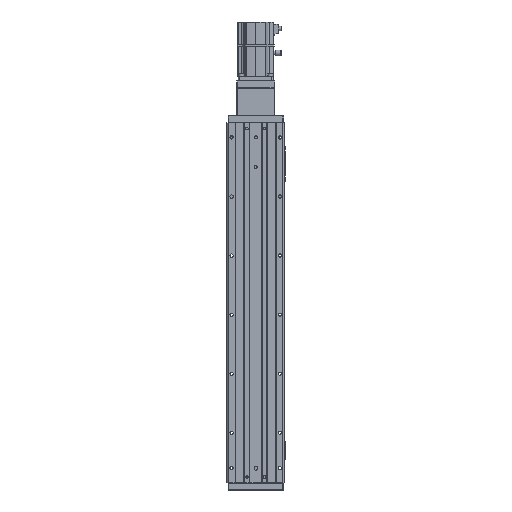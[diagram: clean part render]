
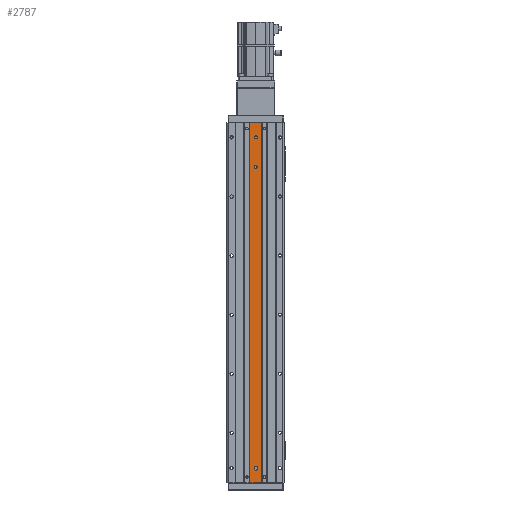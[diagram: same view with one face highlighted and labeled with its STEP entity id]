
A CAD part, front view. The second image highlights one B-rep face of the part: STEP entity #2787.
In plain terms, the highlighted planar face has unit normal (0, -1, 0).
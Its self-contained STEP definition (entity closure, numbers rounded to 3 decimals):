
#437 = EDGE_LOOP ( 'NONE', ( #15315, #3953 ) ) ;
#730 = VERTEX_POINT ( 'NONE', #16511 ) ;
#1087 = CARTESIAN_POINT ( 'NONE',  ( 0., 1., 230. ) ) ;
#1368 = ORIENTED_EDGE ( 'NONE', *, *, #32344, .F. ) ;
#1759 = DIRECTION ( 'NONE',  ( 0., -1., 0. ) ) ;
#2290 = CARTESIAN_POINT ( 'NONE',  ( -10., 1., -305. ) ) ;
#2787 = ADVANCED_FACE ( 'NONE', ( #16586, #30562, #44522, #13165 ), #27108, .F. ) ;
#2794 = ORIENTED_EDGE ( 'NONE', *, *, #29204, .T. ) ;
#3953 = ORIENTED_EDGE ( 'NONE', *, *, #41614, .F. ) ;
#4356 = CARTESIAN_POINT ( 'NONE',  ( 2.5, 1., -279. ) ) ;
#4771 = EDGE_CURVE ( 'NONE', #32066, #15392, #17337, .T. ) ;
#5133 = CARTESIAN_POINT ( 'NONE',  ( 10., 1., -305. ) ) ;
#5310 = CARTESIAN_POINT ( 'NONE',  ( 0., 1., 230. ) ) ;
#5402 = LINE ( 'NONE', #19347, #34308 ) ;
#5474 = DIRECTION ( 'NONE',  ( 1., 0., 0. ) ) ;
#5564 = VERTEX_POINT ( 'NONE', #4356 ) ;
#6497 = VERTEX_POINT ( 'NONE', #11549 ) ;
#9229 = VERTEX_POINT ( 'NONE', #24008 ) ;
#9714 = DIRECTION ( 'NONE',  ( 0., 1., 0. ) ) ;
#9832 = CIRCLE ( 'NONE', #35414, 2.5 ) ;
#10680 = CARTESIAN_POINT ( 'NONE',  ( -10., 1., 305. ) ) ;
#11547 = VERTEX_POINT ( 'NONE', #14691 ) ;
#11549 = CARTESIAN_POINT ( 'NONE',  ( 10., 1., 305. ) ) ;
#11829 = VECTOR ( 'NONE', #13128, 1000. ) ;
#12303 = DIRECTION ( 'NONE',  ( 0., 0., -1. ) ) ;
#12391 = CARTESIAN_POINT ( 'NONE',  ( 0., 1., 280. ) ) ;
#12573 = VERTEX_POINT ( 'NONE', #23191 ) ;
#13128 = DIRECTION ( 'NONE',  ( -1., 0., 0. ) ) ;
#13165 = FACE_OUTER_BOUND ( 'NONE', #34964, .T. ) ;
#14123 = CARTESIAN_POINT ( 'NONE',  ( -2.5, 1., 230. ) ) ;
#14691 = CARTESIAN_POINT ( 'NONE',  ( -2.5, 1., 280. ) ) ;
#14819 = EDGE_CURVE ( 'NONE', #26402, #28461, #16018, .T. ) ;
#14970 = CARTESIAN_POINT ( 'NONE',  ( 2.5, 1., 280. ) ) ;
#15015 = DIRECTION ( 'NONE',  ( 0., -1., 0. ) ) ;
#15190 = AXIS2_PLACEMENT_3D ( 'NONE', #16805, #30764, #44715 ) ;
#15315 = ORIENTED_EDGE ( 'NONE', *, *, #4771, .F. ) ;
#15392 = VERTEX_POINT ( 'NONE', #14123 ) ;
#15686 = DIRECTION ( 'NONE',  ( 1., 0., 0. ) ) ;
#15829 = ORIENTED_EDGE ( 'NONE', *, *, #30804, .F. ) ;
#16018 = LINE ( 'NONE', #29972, #44030 ) ;
#16213 = DIRECTION ( 'NONE',  ( -1., 0., 0. ) ) ;
#16511 = CARTESIAN_POINT ( 'NONE',  ( 2.5, 1., -281. ) ) ;
#16586 = FACE_BOUND ( 'NONE', #30087, .T. ) ;
#16631 = CIRCLE ( 'NONE', #42204, 2.5 ) ;
#16805 = CARTESIAN_POINT ( 'NONE',  ( 0., 1., -279. ) ) ;
#17337 = CIRCLE ( 'NONE', #23179, 2.5 ) ;
#17406 = CARTESIAN_POINT ( 'NONE',  ( -10., 1., -305. ) ) ;
#17583 = CARTESIAN_POINT ( 'NONE',  ( 2.5, 1., 230. ) ) ;
#17925 = AXIS2_PLACEMENT_3D ( 'NONE', #33082, #1759, #15686 ) ;
#17962 = VECTOR ( 'NONE', #19074, 1000. ) ;
#18303 = ORIENTED_EDGE ( 'NONE', *, *, #43449, .F. ) ;
#18524 = AXIS2_PLACEMENT_3D ( 'NONE', #12391, #26339, #40312 ) ;
#19074 = DIRECTION ( 'NONE',  ( 0., 0., 1. ) ) ;
#19252 = DIRECTION ( 'NONE',  ( 0., -1., 0. ) ) ;
#19347 = CARTESIAN_POINT ( 'NONE',  ( 2.5, 1., -279. ) ) ;
#22704 = EDGE_CURVE ( 'NONE', #33583, #26402, #33620, .T. ) ;
#22849 = CARTESIAN_POINT ( 'NONE',  ( 0., 1., 280. ) ) ;
#23179 = AXIS2_PLACEMENT_3D ( 'NONE', #1087, #15015, #28968 ) ;
#23191 = CARTESIAN_POINT ( 'NONE',  ( -2.5, 1., -279. ) ) ;
#23396 = ORIENTED_EDGE ( 'NONE', *, *, #24500, .T. ) ;
#23656 = DIRECTION ( 'NONE',  ( -1., 0., 0. ) ) ;
#23662 = VECTOR ( 'NONE', #16213, 1000. ) ;
#23865 = AXIS2_PLACEMENT_3D ( 'NONE', #41070, #9714, #23656 ) ;
#24008 = CARTESIAN_POINT ( 'NONE',  ( -2.5, 1., -281. ) ) ;
#24070 = EDGE_CURVE ( 'NONE', #9229, #730, #37676, .T. ) ;
#24408 = VERTEX_POINT ( 'NONE', #14970 ) ;
#24500 = EDGE_CURVE ( 'NONE', #33583, #6497, #36491, .T. ) ;
#24865 = EDGE_LOOP ( 'NONE', ( #32494, #1368, #18303, #31472 ) ) ;
#26339 = DIRECTION ( 'NONE',  ( 0., -1., 0. ) ) ;
#26402 = VERTEX_POINT ( 'NONE', #17406 ) ;
#27108 = PLANE ( 'NONE',  #23865 ) ;
#27624 = ORIENTED_EDGE ( 'NONE', *, *, #22704, .F. ) ;
#28461 = VERTEX_POINT ( 'NONE', #10680 ) ;
#28968 = DIRECTION ( 'NONE',  ( 1., 0., 0. ) ) ;
#29204 = EDGE_CURVE ( 'NONE', #6497, #28461, #30521, .T. ) ;
#29690 = LINE ( 'NONE', #43666, #32951 ) ;
#29972 = CARTESIAN_POINT ( 'NONE',  ( -10., 1., -305. ) ) ;
#30087 = EDGE_LOOP ( 'NONE', ( #42564, #15829 ) ) ;
#30521 = LINE ( 'NONE', #44484, #11829 ) ;
#30562 = FACE_BOUND ( 'NONE', #437, .T. ) ;
#30764 = DIRECTION ( 'NONE',  ( 0., -1., 0. ) ) ;
#30804 = EDGE_CURVE ( 'NONE', #11547, #24408, #38258, .T. ) ;
#31472 = ORIENTED_EDGE ( 'NONE', *, *, #24070, .F. ) ;
#31822 = EDGE_CURVE ( 'NONE', #24408, #11547, #9832, .T. ) ;
#32066 = VERTEX_POINT ( 'NONE', #17583 ) ;
#32344 = EDGE_CURVE ( 'NONE', #5564, #12573, #34916, .T. ) ;
#32494 = ORIENTED_EDGE ( 'NONE', *, *, #36853, .F. ) ;
#32951 = VECTOR ( 'NONE', #12303, 1000. ) ;
#33082 = CARTESIAN_POINT ( 'NONE',  ( 0., 1., -281. ) ) ;
#33220 = DIRECTION ( 'NONE',  ( 1., 0., 0. ) ) ;
#33315 = DIRECTION ( 'NONE',  ( 0., 0., 1. ) ) ;
#33583 = VERTEX_POINT ( 'NONE', #33804 ) ;
#33620 = LINE ( 'NONE', #2290, #23662 ) ;
#33804 = CARTESIAN_POINT ( 'NONE',  ( 10., 1., -305. ) ) ;
#34308 = VECTOR ( 'NONE', #33315, 1000. ) ;
#34916 = CIRCLE ( 'NONE', #15190, 2.5 ) ;
#34964 = EDGE_LOOP ( 'NONE', ( #2794, #42157, #27624, #23396 ) ) ;
#35414 = AXIS2_PLACEMENT_3D ( 'NONE', #22849, #36833, #5474 ) ;
#36491 = LINE ( 'NONE', #5133, #17962 ) ;
#36833 = DIRECTION ( 'NONE',  ( 0., -1., 0. ) ) ;
#36853 = EDGE_CURVE ( 'NONE', #12573, #9229, #29690, .T. ) ;
#37676 = CIRCLE ( 'NONE', #17925, 2.5 ) ;
#38258 = CIRCLE ( 'NONE', #18524, 2.5 ) ;
#40312 = DIRECTION ( 'NONE',  ( 1., 0., 0. ) ) ;
#41070 = CARTESIAN_POINT ( 'NONE',  ( -10., 1., -305. ) ) ;
#41614 = EDGE_CURVE ( 'NONE', #15392, #32066, #16631, .T. ) ;
#42157 = ORIENTED_EDGE ( 'NONE', *, *, #14819, .F. ) ;
#42204 = AXIS2_PLACEMENT_3D ( 'NONE', #5310, #19252, #33220 ) ;
#42564 = ORIENTED_EDGE ( 'NONE', *, *, #31822, .F. ) ;
#43449 = EDGE_CURVE ( 'NONE', #730, #5564, #5402, .T. ) ;
#43666 = CARTESIAN_POINT ( 'NONE',  ( -2.5, 1., -279. ) ) ;
#43933 = DIRECTION ( 'NONE',  ( 0., 0., 1. ) ) ;
#44030 = VECTOR ( 'NONE', #43933, 1000. ) ;
#44484 = CARTESIAN_POINT ( 'NONE',  ( -10., 1., 305. ) ) ;
#44522 = FACE_BOUND ( 'NONE', #24865, .T. ) ;
#44715 = DIRECTION ( 'NONE',  ( 1., 0., 0. ) ) ;
